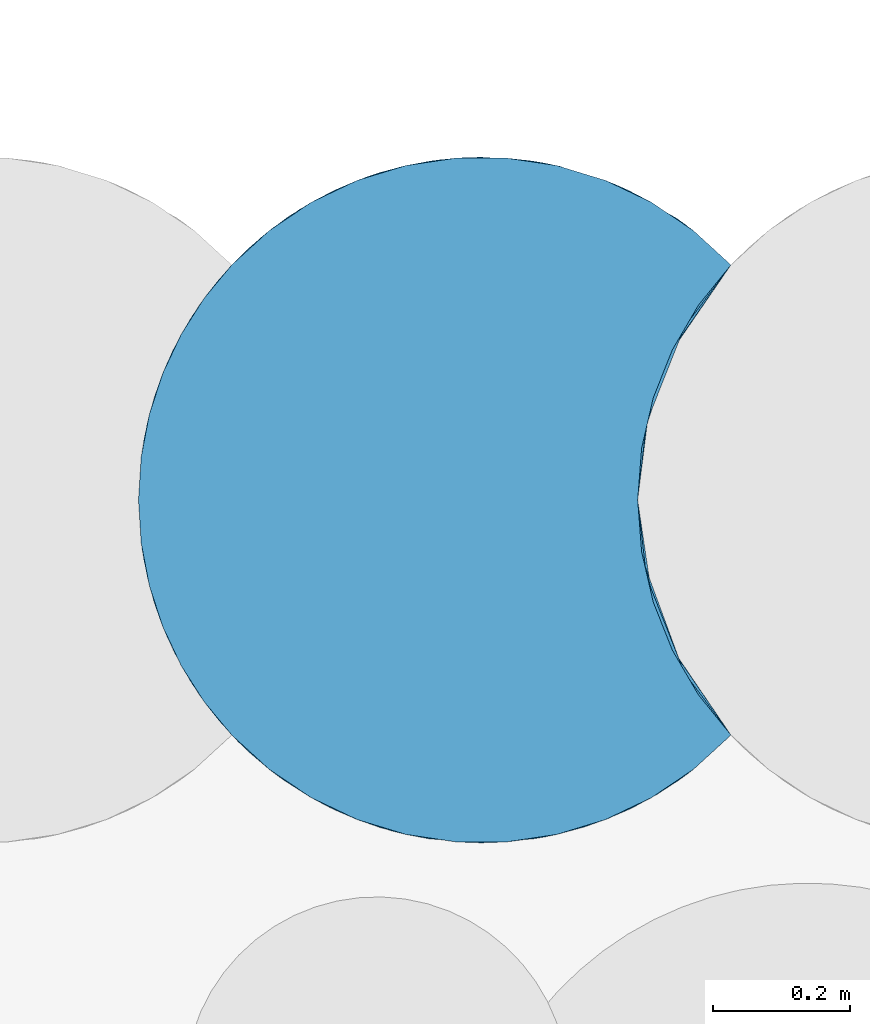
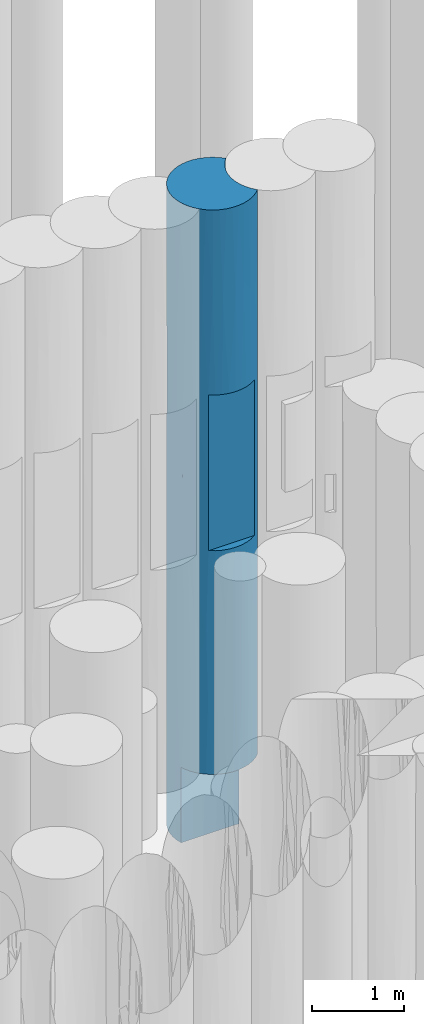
# One storey, part 69 of 104: 1 pile.
"""IFC2X3 building model written with IfcOpenShell, lengths in millimetres."""

import ifcopenshell
import ifcopenshell.guid

model = None  # the IFC model being written
_history = None  # IfcOwnerHistory: only IFC2X3 demands one
_inside = {}  # id of a spatial element -> (the spatial element, [elements in it])
_under = {}  # id of a project, library or spatial element -> (it, [spatial elements below it])
_declared = {}  # id of a project -> (the project, [libraries it declares])
_typed = {}  # id of a type object -> (the type object, [elements of that type])
_made_of = {}  # id of a material, layer set ... -> (it, [elements and type objects made of it])


def new_model(schema):
    """Start an empty IFC model of exactly this schema.

    Asked for "IFC4X3", IfcOpenShell would pick the latest addendum, in which some entities
    have other attributes; the version numbers below select the first issue.
    IFC2X3 requires an IfcOwnerHistory on every rooted entity: one is made here for all.
    """
    global model, _history
    if schema == "IFC4X3":
        model = ifcopenshell.file(schema_version=(4, 3, 0, 0))
    else:
        model = ifcopenshell.file(schema=schema)
    _inside.clear()
    _under.clear()
    _declared.clear()
    _typed.clear()
    _made_of.clear()
    _history = None
    if model.schema == "IFC2X3":
        org = make("IfcOrganization", Name="unknown")
        user = make(
            "IfcPersonAndOrganization",
            ThePerson=make("IfcPerson", FamilyName="unknown"),
            TheOrganization=org,
        )
        app = make(
            "IfcApplication",
            ApplicationDeveloper=org,
            Version="unknown",
            ApplicationFullName="unknown",
            ApplicationIdentifier="unknown",
        )
        _history = make(
            "IfcOwnerHistory",
            OwningUser=user,
            OwningApplication=app,
            ChangeAction="ADDED",
            CreationDate=0,
        )
    return model


def make(cls, **values):
    """One entity of the class cls with the attributes given. An attribute that is None is left unset."""
    return model.create_entity(
        cls, **{name: value for name, value in values.items() if value is not None}
    )


def entity(cls, *values):
    """Any entity or typed value of the class cls, its attributes in the order of the schema. None: left unset."""
    e = model.create_entity(cls)
    for i, value in enumerate(values):
        if value is not None:
            e[i] = value
    return e


def rooted(cls, **values):
    """An entity with a GlobalId (a new one), such as an element, a storey or a relation."""
    return make(cls, GlobalId=ifcopenshell.guid.new(), OwnerHistory=_history, **values)


def si_unit(unit_type, name, prefix=None):
    """IfcSIUnit, for example si_unit("LENGTHUNIT", "METRE", prefix="MILLI")."""
    return make("IfcSIUnit", UnitType=unit_type, Prefix=prefix, Name=name)


def converted_unit(unit_type, name, factor, base, dimensions=None, offset=None):
    """IfcConversionBasedUnit, such as the inch: factor (a typed value) times the base unit."""
    return make(
        "IfcConversionBasedUnit"
        if offset is None
        else "IfcConversionBasedUnitWithOffset",
        ConversionOffset=offset,
        Dimensions=None
        if dimensions is None
        else entity("IfcDimensionalExponents", *dimensions),
        UnitType=unit_type,
        Name=name,
        ConversionFactor=make(
            "IfcMeasureWithUnit", ValueComponent=factor, UnitComponent=base
        ),
    )


def derived_unit(unit_type, elements):
    """IfcDerivedUnit: a product of units, each with its exponent."""
    return make(
        "IfcDerivedUnit",
        Elements=[
            make("IfcDerivedUnitElement", Unit=unit, Exponent=power)
            for unit, power in elements
        ],
        UnitType=unit_type,
    )


def assignment(units):
    """IfcUnitAssignment: the units of a project."""
    return None if units is None else make("IfcUnitAssignment", Units=units)


def point(xyz):
    """IfcCartesianPoint."""
    return None if xyz is None else make("IfcCartesianPoint", Coordinates=xyz)


def direction(xyz):
    """IfcDirection."""
    return None if xyz is None else make("IfcDirection", DirectionRatios=xyz)


def frame(location, z_axis=None, x_axis=None):
    """IfcAxis2Placement3D, a coordinate frame: its origin and axes. An axis left out is left unset."""
    return make(
        "IfcAxis2Placement3D",
        Location=point(location),
        Axis=direction(z_axis),
        RefDirection=direction(x_axis),
    )


def origin():
    """The frame at (0, 0, 0) with its axes left unset."""
    return frame((0.0, 0.0, 0.0))


def place(relative_to, where):
    """IfcLocalPlacement: puts the frame where relative to a parent placement (None: the world)."""
    return make(
        "IfcLocalPlacement", PlacementRelTo=relative_to, RelativePlacement=where
    )


def context(
    kind, dimensions, precision=None, world=None, true_north=None, identifier=None
):
    """IfcGeometricRepresentationContext, for example the 3D "Model" context."""
    return make(
        "IfcGeometricRepresentationContext",
        ContextIdentifier=identifier,
        ContextType=kind,
        CoordinateSpaceDimension=dimensions,
        Precision=precision,
        WorldCoordinateSystem=world,
        TrueNorth=true_north,
    )


def subcontext(parent, identifier, kind, view, scale=None):
    """IfcGeometricRepresentationSubContext, for example "Body" below "Model"."""
    return make(
        "IfcGeometricRepresentationSubContext",
        ContextIdentifier=identifier,
        ContextType=kind,
        ParentContext=parent,
        TargetScale=scale,
        TargetView=view,
    )


def project(units=None, contexts=None):
    """IfcProject with its units and contexts."""
    return rooted(
        "IfcProject",
        Name="project",
        RepresentationContexts=contexts,
        UnitsInContext=assignment(units),
    )


def spatial(cls, under=None, at=None, **own):
    """A site, building, storey or space (cls), placed at a placement, below another one or the project."""
    s = rooted(cls, ObjectPlacement=at, **own)
    if under is not None:
        _under.setdefault(under.id(), (under, []))[1].append(s)
    return s


def faces_of(points, faces, orient=None, outer=None):
    """IfcFace entities. A face is a list of loops; a loop is a list of indices into points, from 0.

    orient and outer hold one flag for each loop. By default every Orientation is true, the
    first loop of a face is its IfcFaceOuterBound and the others are IfcFaceBound.
    """
    made = []
    for i, loops in enumerate(faces):
        bounds = []
        for j, loop in enumerate(loops):
            is_outer = j == 0 if outer is None else outer[i][j]
            bounds.append(
                make(
                    "IfcFaceOuterBound" if is_outer else "IfcFaceBound",
                    Bound=make("IfcPolyLoop", Polygon=[points[k] for k in loop]),
                    Orientation=True if orient is None else orient[i][j],
                )
            )
        made.append(make("IfcFace", Bounds=bounds))
    return made


def faceted_brep(points, faces, orient=None, outer=None, voids=None):
    """IfcFacetedBrep: a solid bounded by flat faces; with voids (closed shells), ...WithVoids."""
    shared = [point(p) for p in points]
    hull = make("IfcClosedShell", CfsFaces=faces_of(shared, faces, orient, outer))
    if voids is None:
        return make("IfcFacetedBrep", Outer=hull)
    return make(
        "IfcFacetedBrepWithVoids",
        Outer=hull,
        Voids=[
            make(cls, CfsFaces=faces_of(shared, fs, o, b)) for cls, fs, o, b in voids
        ],
    )


def shape(context_of_items, identifier, shape_type, items):
    """IfcShapeRepresentation: the items that make up one representation, for example the "Body"."""
    return make(
        "IfcShapeRepresentation",
        ContextOfItems=context_of_items,
        RepresentationIdentifier=identifier,
        RepresentationType=shape_type,
        Items=items,
    )


def source(mapping_origin, context_of_items, identifier, shape_type, items):
    """IfcRepresentationMap: a shape defined once, which mapped items show again and again."""
    return make(
        "IfcRepresentationMap",
        MappingOrigin=mapping_origin,
        MappedRepresentation=shape(context_of_items, identifier, shape_type, items),
    )


def transform(
    local_origin,
    x_axis=None,
    y_axis=None,
    z_axis=None,
    scale=None,
    scale2=None,
    scale3=None,
    uniform=True,
):
    """IfcCartesianTransformationOperator3D, or its non-uniform kind. x_axis, y_axis, z_axis: its Axis1, 2, 3."""
    if uniform:
        return make(
            "IfcCartesianTransformationOperator3D",
            Axis1=direction(x_axis),
            Axis2=direction(y_axis),
            LocalOrigin=point(local_origin),
            Scale=scale,
            Axis3=direction(z_axis),
        )
    return make(
        "IfcCartesianTransformationOperator3DnonUniform",
        Axis1=direction(x_axis),
        Axis2=direction(y_axis),
        LocalOrigin=point(local_origin),
        Scale=scale,
        Axis3=direction(z_axis),
        Scale2=scale2,
        Scale3=scale3,
    )


def mapped(mapping_source, mapping_target):
    """IfcMappedItem: shows the shape of a source again, moved by a transform."""
    return make(
        "IfcMappedItem", MappingSource=mapping_source, MappingTarget=mapping_target
    )


def material(Name=None, Category=None):
    """IfcMaterial."""
    return make("IfcMaterial", Name=Name, Category=Category)


def made_of(thing, what):
    """Note that an element or type object is made of a material, layer set ...; save() writes the relation."""
    if what is not None:
        _made_of.setdefault(what.id(), (what, []))[1].append(thing)
    return thing


def element(
    cls,
    number,
    at=None,
    inside=None,
    cuts=None,
    type_object=None,
    material=None,
    context=None,
    identifier="Body",
    shape_type=None,
    held_by="IfcProductDefinitionShape",
    body=None,
    shapes=None,
    **own,
):
    """One element of the class cls, such as IfcWall. Its Tag is "e" and its number.

    at: its placement. inside: the storey or other place that contains it. cuts: it is an
    opening in that element (IfcRelVoidsElement). A single representation is given by context,
    identifier, shape_type and body (its items); several are given by shapes. held_by: the class
    of the entity that holds the representations. save() writes the other relations.
    """
    e = rooted(cls, Tag="e%d" % number, ObjectPlacement=at, **own)
    if body is not None:
        shapes = [shape(context, identifier, shape_type, body)]
    if shapes is not None:
        e.Representation = make(held_by, Representations=shapes)
    if inside is not None:
        _inside.setdefault(inside.id(), (inside, []))[1].append(e)
    if cuts is not None:
        rooted(
            "IfcRelVoidsElement", RelatingBuildingElement=cuts, RelatedOpeningElement=e
        )
    if type_object is not None:
        _typed.setdefault(type_object.id(), (type_object, []))[1].append(e)
    return made_of(e, material)


def aggregate(whole, parts):
    """IfcRelAggregates: a whole, such as a stair, and the parts it consists of."""
    return rooted("IfcRelAggregates", RelatingObject=whole, RelatedObjects=parts)


def save(model, path):
    """Write the relations noted so far, then the file.

    IfcRelAggregates (storeys below a building ...), IfcRelContainedInSpatialStructure (elements
    in a storey), IfcRelDefinesByType, IfcRelAssociatesMaterial and IfcRelDeclares: one each for
    every whole, place, type object, material and project.
    """
    for whole, parts in _under.values():
        aggregate(whole, parts)
    for where, things in _inside.values():
        rooted(
            "IfcRelContainedInSpatialStructure",
            RelatedElements=things,
            RelatingStructure=where,
        )
    for kind, things in _typed.values():
        rooted("IfcRelDefinesByType", RelatedObjects=things, RelatingType=kind)
    for what, things in _made_of.values():
        rooted("IfcRelAssociatesMaterial", RelatedObjects=things, RelatingMaterial=what)
    for by, libraries in _declared.values():
        rooted("IfcRelDeclares", RelatingContext=by, RelatedDefinitions=libraries)
    model.write(path)


model = new_model("IFC2X3")

# Units and contexts
model_context = context("Model", 3, precision=0.01, world=origin(), true_north=direction((6.12303176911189e-17, 1.0)))
body_context = subcontext(model_context, "Body", "Model", "MODEL_VIEW")
ifc_project = project(units=[si_unit("LENGTHUNIT", "METRE", prefix="MILLI"), si_unit("AREAUNIT", "SQUARE_METRE", prefix="MILLI"), si_unit("VOLUMEUNIT", "CUBIC_METRE"), converted_unit("PLANEANGLEUNIT", "DEGREE", entity("IfcRatioMeasure", 0.0174532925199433), si_unit("PLANEANGLEUNIT", "RADIAN"), dimensions=[0, 0, 0, 0, 0, 0, 0]), si_unit("MASSUNIT", "GRAM", prefix="KILO"), derived_unit("MASSDENSITYUNIT", [(si_unit("MASSUNIT", "GRAM", prefix="KILO"), 1), (si_unit("LENGTHUNIT", "METRE"), -3)]), derived_unit("MOMENTOFINERTIAUNIT", [(si_unit("LENGTHUNIT", "METRE"), 4)]), si_unit("TIMEUNIT", "SECOND"), si_unit("FREQUENCYUNIT", "HERTZ"), si_unit("THERMODYNAMICTEMPERATUREUNIT", "DEGREE_CELSIUS"), derived_unit("THERMALTRANSMITTANCEUNIT", [(si_unit("MASSUNIT", "GRAM", prefix="KILO"), 1), (si_unit("THERMODYNAMICTEMPERATUREUNIT", "KELVIN"), -1), (si_unit("TIMEUNIT", "SECOND"), -3)]), derived_unit("VOLUMETRICFLOWRATEUNIT", [(si_unit("LENGTHUNIT", "METRE"), 3), (si_unit("TIMEUNIT", "SECOND"), -1)]), si_unit("ELECTRICCURRENTUNIT", "AMPERE"), si_unit("ELECTRICVOLTAGEUNIT", "VOLT"), si_unit("POWERUNIT", "WATT"), si_unit("FORCEUNIT", "NEWTON", prefix="KILO"), si_unit("ILLUMINANCEUNIT", "LUX"), si_unit("LUMINOUSFLUXUNIT", "LUMEN"), si_unit("LUMINOUSINTENSITYUNIT", "CANDELA"), derived_unit("USERDEFINED", [(si_unit("MASSUNIT", "GRAM", prefix="KILO"), -1), (si_unit("LENGTHUNIT", "METRE"), -2), (si_unit("TIMEUNIT", "SECOND"), 3), (si_unit("LUMINOUSFLUXUNIT", "LUMEN"), 1)]), derived_unit("LINEARVELOCITYUNIT", [(si_unit("LENGTHUNIT", "METRE"), 1), (si_unit("TIMEUNIT", "SECOND"), -1)]), si_unit("PRESSUREUNIT", "PASCAL"), derived_unit("USERDEFINED", [(si_unit("LENGTHUNIT", "METRE"), -2), (si_unit("MASSUNIT", "GRAM", prefix="KILO"), 1), (si_unit("TIMEUNIT", "SECOND"), -2)]), derived_unit("LINEARFORCEUNIT", [(si_unit("MASSUNIT", "GRAM", prefix="KILO"), 1), (si_unit("LENGTHUNIT", "METRE"), 1), (si_unit("TIMEUNIT", "SECOND"), -2), (si_unit("LENGTHUNIT", "METRE"), -1)]), derived_unit("PLANARFORCEUNIT", [(si_unit("MASSUNIT", "GRAM", prefix="KILO"), 1), (si_unit("LENGTHUNIT", "METRE"), 1), (si_unit("TIMEUNIT", "SECOND"), -2), (si_unit("LENGTHUNIT", "METRE"), -2)])], contexts=[model_context])

# Site, building, storey
site_placement = place(None, origin())
site = spatial("IfcSite", under=ifc_project, at=site_placement, Name="Theater aan de Parade", CompositionType="ELEMENT")
building_placement = place(site_placement, origin())
building = spatial("IfcBuilding", under=site, at=building_placement, Name="Theater aan de Parade", CompositionType="ELEMENT")
storey_placement = place(building_placement, frame((0.0, 0.0, -5520.0)))
storey = spatial("IfcBuildingStorey", under=building, at=storey_placement, Name="-2 kelder", CompositionType="ELEMENT", Elevation=-5520.0)

# Pile
ifc_material = material(Name="00_PBT_MAT_grout")
shared_shape = source(origin(), body_context, "Body", "Brep", [
    faceted_brep([(464.560582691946, 1000.22181762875, 0.0), (538.616668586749, 1000.22280478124, 0.0), (611.860911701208, 989.28522369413, 0.0), (682.686734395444, 967.648790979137, 0.0), (749.540520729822, 935.787802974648, 0.0), (810.955686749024, 894.400737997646, 0.0), (865.595272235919, 844.38383680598, 0.0), (818.150067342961, 785.695330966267, 0.0), (780.078223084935, 720.53458465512, 0.0), (752.247075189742, 650.386060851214, 0.0), (735.290660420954, 576.847851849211, 0.0), (729.595272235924, 501.595272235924, 0.0), (734.989632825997, 428.347327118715, 0.0), (751.055970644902, 356.681032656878, 0.0), (23.0559706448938, 356.681032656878, 0.0), (6.98989759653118, 428.345539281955, 0.0), (1.59527223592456, 501.595272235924, 0.0), (5.55623942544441, 564.406719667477, 0.0), (17.3678310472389, 626.189755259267, 0.0), (36.8430214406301, 686.000655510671, 0.0), (63.6725852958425, 742.891190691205, 0.0), (97.4346759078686, 795.966147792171, 0.0), (137.595794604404, 844.383899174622, 0.0), (192.22735059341, 894.394825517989, 0.0), (253.640398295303, 935.782306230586, 0.0), (320.492432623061, 967.644369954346, 0.0), (391.316996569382, 989.282366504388, 0.0), (865.595272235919, 844.38383680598, 1561.53755047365), (789.401321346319, 910.456713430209, 1491.00548248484), (799.657477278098, 903.041310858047, 2504.8821061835), (26.1639417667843, 656.401764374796, 1423.71039154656), (50.5548382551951, 717.378790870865, 815.522482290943), (716.704326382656, 952.957759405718, 974.743749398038), (575.441567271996, 996.111929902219, 1365.35911550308), (789.401320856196, 910.456713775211, 6978.99451100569), (810.95568642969, 894.40073824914, 8470.0), (865.595272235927, 844.38383680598, 6908.46244952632), (790.87967060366, 909.412065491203, 5813.01191791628), (865.595272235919, 844.38383680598, 5571.72989618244), (865.595272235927, 844.38383680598, 5346.92489905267), (538.616668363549, 1000.22280479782, 8470.0), (611.860911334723, 989.285223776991, 8470.0), (575.441567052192, 996.111929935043, 7150.26699538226), (36.7297114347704, 685.714826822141, 2307.62641859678), (64.0996250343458, 743.664598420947, 1628.37591838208), (222.166559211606, 916.227150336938, 956.748364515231), (355.503556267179, 979.776420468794, 1427.16858692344), (501.588606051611, 1001.59527219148, 2596.73325583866), (463.496981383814, 1000.14167953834, 1072.24580175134), (865.595272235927, 844.38383680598, 8470.0), (222.166558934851, 916.227150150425, 1972.30012717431), (217.544033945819, 913.074183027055, 3221.6386693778), (333.161300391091, 972.371224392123, 2861.2247413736), (286.475705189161, 952.952749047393, 7480.63704182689), (192.227350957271, 894.394825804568, 8470.0), (253.640398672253, 935.78230644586, 8470.0), (100.736484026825, 800.446793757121, 6793.03274327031), (163.989554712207, 870.407391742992, 7127.47212773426), (196.918801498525, 898.044825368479, 6218.94986965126), (785.426204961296, 913.226176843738, 4790.96227754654), (79.757522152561, 770.022008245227, 7621.93766369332), (63.6725852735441, 742.89119065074, 8470.0), (97.4346759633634, 795.966147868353, 8470.0), (692.57972044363, 963.682861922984, 4235.0), (794.511313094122, 906.811502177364, 3679.03770634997), (116.757578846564, 820.812987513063, 1364.08942331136), (716.704325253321, 952.957759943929, 6462.73277506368), (716.704325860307, 952.957759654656, 7495.25624707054), (716.704325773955, 952.957759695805, 2007.26721704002), (36.8430215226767, 686.000655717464, 8470.0), (464.560582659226, 1000.22181762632, 8470.0), (682.686733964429, 967.648791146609, 8470.0), (749.540520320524, 935.787803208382, 8470.0), (1.59527223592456, 501.595272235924, 1058.74569867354), (1.59527223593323, 501.595272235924, 1561.53750746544), (286.475704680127, 952.952748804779, 4235.0), (286.475704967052, 952.952748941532, 6434.30301971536), (236.846141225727, 925.750783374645, 5334.6515100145), (13.5254225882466, 610.167008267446, 7372.75274235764), (17.3678311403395, 626.189755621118, 8470.0), (150.377453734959, 857.468907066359, 2562.89631213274), (79.7181549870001, 769.960131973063, 2632.86902156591), (49.3623188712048, 714.868233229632, 6938.44019104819), (712.525517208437, 954.925650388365, 3129.72297922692), (501.588606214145, 1001.59527219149, 5873.26673738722), (569.755285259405, 996.927698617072, 4755.12996065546), (476.322275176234, 1000.95613936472, 5007.14730889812), (391.316996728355, 989.28236654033, 8470.0), (427.735977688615, 996.109988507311, 7104.64110728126), (9.23358182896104, 588.658271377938, 2342.30656064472), (116.757578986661, 820.812987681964, 5893.9017401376), (33.0262183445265, 676.074616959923, 5347.10350774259), (137.605579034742, 844.3947810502, 8470.0), (438.381630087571, 997.583211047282, 3963.78240309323), (320.492432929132, 967.644370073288, 8470.0), (43.0784257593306, 701.000140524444, 4473.88274990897), (11.2142039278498, 599.198591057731, 4667.65803343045), (1.59527223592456, 501.595272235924, 8470.0), (5.55623942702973, 564.406719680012, 8470.0), (9.51542927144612, 590.237407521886, 5495.65544289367), (116.185815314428, 820.122430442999, 3373.18426703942), (182.118134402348, 886.217630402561, 4288.45203817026), (591.824887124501, 993.386504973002, 3489.10403538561), (18.4305593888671, 630.249305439, 6406.00282362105), (1.59527223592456, 501.595272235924, 2117.50286755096), (1.59527223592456, 501.595272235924, 3123.07501493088), (616.099631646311, 988.30745790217, 2440.53317146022), (386.192771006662, 988.095285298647, 6175.6487371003), (381.519799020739, 986.963051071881, 5169.51578005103), (613.759023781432, 988.852178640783, 6106.01087867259), (692.700363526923, 963.6329807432, 5361.94747271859), (75.4806634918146, 763.179561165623, 5112.43896971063), (135.72579850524, 842.387772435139, 5005.6290926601), (62.9697281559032, 741.611171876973, 3455.71179201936), (97.3058699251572, 795.789220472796, 4263.74923889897), (26.3526093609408, 656.979992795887, 3676.29325435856), (1.59527223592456, 501.595272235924, 3176.26003642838), (1.59527223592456, 501.595272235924, 4234.99353122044), (865.595272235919, 844.38383680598, 3123.07579226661), (865.595272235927, 844.38383680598, 2898.26629172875), (865.595272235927, 844.38383680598, 4235.0006913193), (1.59527223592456, 501.595272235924, 5346.92498506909), (1.59527223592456, 501.595272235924, 5571.74329494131), (1.59527223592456, 501.595272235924, 6908.46249253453), (9.64635078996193, 412.229402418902, 1740.22189428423), (142.565506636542, 153.604428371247, 5505.0), (213.720794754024, 92.7820077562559, 4990.0), (213.720794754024, 92.7820077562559, 6020.0), (105.373424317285, 196.6227370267, 4545.399296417), (23.0559706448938, 356.681032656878, 1000.0), (118.439637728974, 180.360529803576, 2386.19848820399), (32.2090199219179, 329.326452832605, 2204.61529178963), (68.8651327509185, 251.106497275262, 1000.0), (42.9242829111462, 302.54521935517, 1000.0), (789.469749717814, 92.7820077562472, 3960.0), (865.595272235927, 158.806707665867, 2867.49999999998), (865.595272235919, 158.806707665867, 3648.28895539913), (865.595272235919, 158.806707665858, 3801.24999999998), (865.595272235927, 158.806707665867, 4735.0), (865.595272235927, 158.806707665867, 5668.74999999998), (865.595272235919, 158.806707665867, 5821.74150431), (865.595272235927, 158.806707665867, 6602.49999999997), (789.469749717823, 92.7820077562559, 6020.0), (789.469749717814, 92.7820077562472, 4990.0), (8.81751859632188, 416.918914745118, 2646.87500001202), (286.466151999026, 50.2423486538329, 2461.24897887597), (193.922353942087, 107.466644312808, 2892.94714577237), (210.051202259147, 95.3908221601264, 1944.41924411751), (163.989554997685, 132.783152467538, 7198.38299068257), (79.7181554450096, 233.230411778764, 6604.44114999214), (148.072190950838, 148.011574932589, 6362.25527219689), (31.1680313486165, 332.189808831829, 6056.32490962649), (75.690496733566, 239.669477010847, 5519.99565303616), (253.629698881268, 67.4143486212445, 1000.0), (320.484188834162, 35.5493780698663, 1000.0), (55.1532507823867, 276.451936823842, 3318.42122771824), (757.302459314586, 71.9281516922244, 3141.67756733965), (789.630291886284, 92.8951040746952, 2324.13442625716), (391.312227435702, 13.9092564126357, 1000.0), (370.182009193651, 19.1737197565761, 1947.89605695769), (279.558542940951, 53.6000815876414, 3960.0), (391.331294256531, 13.9049451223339, 2895.75417679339), (100.558387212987, 202.982786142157, 1000.0), (137.59527223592, 158.806707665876, 1000.0), (464.559880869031, 2.96877897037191, 1000.0), (501.589988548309, 1.59527226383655, 2460.40757830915), (29.9326481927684, 335.660438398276, 4903.36557309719), (121.469006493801, 176.781445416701, 3478.13394910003), (26.1639420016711, 346.788779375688, 7201.03028685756), (5.55623942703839, 438.783824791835, 8470.0), (79.7181554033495, 233.230411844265, 7559.63491729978), (63.6725852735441, 260.299353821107, 8470.0), (36.8430215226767, 317.189888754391, 8470.0), (810.967462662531, 108.799081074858, 1000.0), (865.595272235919, 158.806707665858, 1000.0), (865.595272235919, 158.806707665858, 1780.76885310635), (17.3678311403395, 377.000788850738, 8470.0), (137.605579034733, 158.795763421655, 8470.0), (865.595272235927, 158.806707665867, 7689.2311468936), (865.595272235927, 158.806707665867, 8470.0), (810.95568642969, 108.789806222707, 8470.0), (253.008900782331, 67.7694823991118, 7429.16293872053), (279.558542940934, 53.6000815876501, 6020.0), (749.552165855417, 67.40939164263, 1000.0), (192.227350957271, 108.795718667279, 8470.0), (192.215508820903, 108.80504579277, 1000.0), (355.503557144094, 23.4141237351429, 7268.21560542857), (14.414938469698, 389.099395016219, 3705.62500005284), (320.492432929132, 35.5461743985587, 8470.0), (391.316996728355, 13.9081779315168, 8470.0), (350.609564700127, 24.9367822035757, 6020.0), (501.595272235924, 1.59527223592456, 3960.0), (425.205629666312, 7.4651046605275, 3960.0), (538.620125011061, 2.96799633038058, 1000.0), (611.868102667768, 13.9069466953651, 1000.0), (595.054059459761, 10.4074720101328, 1977.18955440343), (682.696772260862, 35.5456539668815, 1000.0), (688.656307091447, 37.9055384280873, 2500.38408566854), (97.4346759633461, 207.224396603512, 8470.0), (682.68673396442, 35.5417533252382, 8470.0), (611.860911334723, 13.9053206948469, 8470.0), (611.870435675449, 13.9074742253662, 7434.83465826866), (595.688957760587, 10.5287000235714, 2967.02304747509), (577.984914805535, 7.4651046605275, 3960.0), (749.540520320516, 67.4027412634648, 8470.0), (716.704326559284, 50.2327851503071, 7267.64689878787), (803.386835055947, 102.945234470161, 7145.86557351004), (577.984914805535, 7.4651046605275, 6020.0), (501.58860727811, 1.5952722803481, 7268.66818084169), (501.595272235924, 1.59527223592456, 6020.0), (723.632001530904, 53.6000815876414, 6020.0), (865.595272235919, 158.806707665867, 2561.54745108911), (652.580979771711, 24.9367822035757, 3960.0), (723.632001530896, 53.6000815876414, 3960.0), (213.720794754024, 92.7820077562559, 3960.0), (253.640398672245, 67.4082380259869, 8470.0), (425.205629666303, 7.4651046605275, 6020.0), (464.560582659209, 2.96872684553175, 8470.0), (652.580979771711, 24.9367822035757, 6020.0), (538.616668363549, 2.96773967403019, 8470.0), (865.595272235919, 158.806707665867, 6908.48300862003), (350.609564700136, 24.9367822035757, 3960.0), (818.150067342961, 217.495213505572, 8470.0), (780.078223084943, 282.655959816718, 8470.0), (752.247075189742, 352.804483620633, 8470.0), (735.290660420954, 426.342692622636, 8470.0), (729.595272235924, 501.595272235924, 8470.0), (735.290660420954, 576.847851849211, 8470.0), (752.247075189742, 650.386060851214, 8470.0), (780.078223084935, 720.53458465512, 8470.0), (818.150067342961, 785.695330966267, 8470.0), (742.379444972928, 613.937328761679, 959.062888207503), (738.151011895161, 593.695972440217, 6638.44327873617), (742.379444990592, 613.937328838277, 7510.93711044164), (729.595272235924, 501.595272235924, 6908.4597613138), (808.681716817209, 771.468907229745, 6638.44327726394), (781.985001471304, 724.40695394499, 5169.28730842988), (797.883005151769, 753.834282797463, 959.062888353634), (764.837270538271, 685.986160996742, 1706.36651512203), (797.883005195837, 753.834282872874, 7510.93711014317), (729.595272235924, 501.595272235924, 1561.54023868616), (729.595272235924, 501.595272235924, 1058.75298998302), (808.681716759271, 771.468907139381, 1831.55672113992), (778.799150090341, 717.888721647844, 2630.65322090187), (766.296890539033, 689.62348691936, 3566.63442778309), (739.967026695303, 602.90756748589, 2500.19182196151), (729.595272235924, 501.595272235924, 3123.08047737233), (729.595272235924, 501.595272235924, 2117.50597996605), (764.837270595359, 685.986161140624, 6763.63348211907), (798.309538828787, 754.56289103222, 4260.62631723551), (810.907944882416, 774.909966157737, 3324.34692372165), (745.175048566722, 625.438103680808, 5612.66192558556), (744.930852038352, 624.478956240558, 4544.29323307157), (738.502483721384, 595.552033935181, 3413.30504808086), (729.595272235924, 501.595272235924, 4235.01242423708), (729.595272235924, 501.595272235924, 5571.72573206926), (729.595272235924, 501.595272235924, 5346.93194686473), (729.595272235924, 501.595272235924, 3176.24701001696), (737.652631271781, 412.194835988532, 1740.61215192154), (796.86362242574, 251.109106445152, 1977.49082641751), (808.103941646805, 232.6249053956, 2870.31406883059), (817.38347481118, 218.608639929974, 1000.0), (751.055970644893, 356.681032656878, 1000.0), (797.883005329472, 249.356261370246, 7510.9371107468), (762.458274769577, 323.317327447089, 4903.36557316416), (741.179889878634, 394.588663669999, 5988.20523574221), (778.685121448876, 285.53964070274, 5822.23176538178), (742.379445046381, 389.253215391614, 7510.9371105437), (764.837270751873, 317.204382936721, 6763.63348277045), (808.681717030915, 231.721636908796, 6638.44327929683), (736.645152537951, 417.928196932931, 2646.87500001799), (763.60159139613, 320.349887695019, 2739.79071288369), (778.900945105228, 285.089790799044, 1000.0), (736.819640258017, 416.906568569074, 5098.32805872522), (739.996017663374, 400.142968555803, 3705.62500000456), (776.673795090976, 289.788436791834, 3825.90126919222), (807.285378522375, 233.91196369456, 5061.9220930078)], [[[0, 1, 2, 3, 4, 5, 6, 7, 8, 9, 10, 11, 12, 13, 14, 15, 16, 17, 18, 19, 20, 21, 22, 23, 24, 25, 26]], [[27, 28, 29]], [[18, 30, 31]], [[4, 3, 32]], [[32, 2, 33]], [[34, 35, 36]], [[37, 36, 38, 39]], [[40, 41, 42]], [[30, 43, 44]], [[45, 46, 25]], [[47, 33, 48]], [[6, 5, 27]], [[35, 49, 36]], [[1, 48, 33]], [[26, 46, 48]], [[50, 51, 52]], [[53, 54, 55]], [[56, 57, 58]], [[39, 59, 37]], [[28, 5, 32]], [[60, 61, 62]], [[63, 59, 64]], [[25, 46, 26]], [[45, 22, 65]], [[24, 23, 45]], [[66, 67, 34]], [[28, 32, 68]], [[25, 24, 45]], [[69, 61, 60]], [[70, 40, 42]], [[67, 71, 72]], [[0, 48, 1]], [[42, 41, 67]], [[17, 16, 73, 74]], [[52, 51, 75]], [[58, 76, 77]], [[31, 21, 20]], [[69, 78, 79]], [[1, 33, 2]], [[65, 50, 45]], [[31, 19, 18]], [[80, 65, 81]], [[78, 69, 82]], [[64, 29, 83]], [[17, 74, 30]], [[84, 85, 86]], [[53, 87, 88]], [[30, 74, 89]], [[30, 18, 17]], [[42, 84, 88]], [[82, 90, 91]], [[57, 60, 92]], [[4, 32, 5]], [[88, 87, 70]], [[52, 93, 47]], [[94, 53, 55]], [[95, 96, 91]], [[42, 88, 70]], [[97, 98, 78]], [[54, 53, 57]], [[92, 54, 57]], [[91, 96, 99]], [[51, 100, 101]], [[102, 63, 83]], [[57, 56, 60]], [[44, 31, 30]], [[99, 103, 91]], [[78, 98, 79]], [[50, 52, 46]], [[65, 22, 21]], [[89, 74, 104, 105]], [[75, 101, 77]], [[106, 33, 47]], [[33, 68, 32]], [[42, 67, 66]], [[107, 84, 108]], [[88, 76, 53]], [[67, 41, 71]], [[109, 42, 66]], [[53, 94, 87]], [[57, 53, 76]], [[32, 3, 2]], [[45, 23, 22]], [[46, 45, 50]], [[67, 72, 35]], [[106, 83, 68]], [[110, 66, 37]], [[111, 90, 112]], [[95, 91, 111]], [[51, 101, 75]], [[100, 113, 114]], [[93, 52, 75]], [[47, 46, 52]], [[108, 93, 75]], [[102, 85, 63]], [[89, 43, 30]], [[115, 105, 116, 117]], [[29, 28, 68]], [[5, 28, 27]], [[83, 29, 68]], [[29, 118, 119, 27]], [[102, 106, 47]], [[59, 39, 120]], [[47, 93, 102]], [[108, 86, 93]], [[93, 85, 102]], [[110, 109, 66]], [[59, 120, 64]], [[118, 64, 120]], [[59, 63, 110]], [[63, 85, 110]], [[109, 85, 84]], [[85, 109, 110]], [[42, 109, 84]], [[29, 64, 118]], [[64, 83, 63]], [[110, 37, 59]], [[37, 66, 34]], [[35, 34, 67]], [[37, 34, 36]], [[77, 108, 75]], [[88, 107, 76]], [[83, 106, 102]], [[33, 106, 68]], [[80, 51, 50]], [[80, 100, 51]], [[114, 112, 101]], [[57, 76, 58]], [[77, 101, 112]], [[108, 77, 76]], [[65, 80, 50]], [[100, 80, 81]], [[113, 100, 81]], [[101, 100, 114]], [[43, 113, 81]], [[113, 115, 95]], [[111, 112, 114]], [[112, 90, 58]], [[114, 113, 95]], [[90, 111, 91]], [[114, 95, 111]], [[117, 96, 115]], [[99, 96, 121]], [[115, 96, 95]], [[121, 96, 117]], [[99, 121, 122, 123]], [[123, 78, 103]], [[112, 58, 77]], [[56, 58, 90]], [[103, 78, 82]], [[78, 123, 97]], [[91, 103, 82]], [[123, 103, 99]], [[105, 115, 89]], [[115, 113, 43]], [[115, 43, 89]], [[44, 81, 65]], [[81, 44, 43]], [[65, 21, 31]], [[65, 31, 44]], [[19, 31, 20]], [[90, 82, 56]], [[60, 56, 82]], [[60, 82, 69]], [[60, 62, 92]], [[26, 48, 0]], [[47, 48, 46]], [[93, 86, 85]], [[108, 84, 86]], [[84, 107, 88]], [[108, 76, 107]], [[124, 104, 74, 73]], [[125, 126, 127]], [[126, 125, 128]], [[129, 15, 14]], [[130, 131, 132]], [[129, 133, 131]], [[134, 135, 136, 137, 138, 139, 140, 141, 142, 143]], [[144, 116, 105, 104]], [[132, 131, 133]], [[129, 124, 73]], [[145, 146, 147]], [[148, 149, 150]], [[149, 151, 152]], [[145, 153, 154]], [[131, 130, 155]], [[135, 156, 157]], [[154, 158, 159]], [[153, 145, 147]], [[160, 145, 161]], [[130, 162, 163]], [[164, 165, 159]], [[122, 166, 151]], [[160, 146, 145]], [[130, 167, 155]], [[123, 168, 169]], [[148, 170, 149]], [[170, 171, 172]], [[173, 174, 175]], [[176, 168, 172]], [[123, 122, 151]], [[170, 172, 168]], [[170, 148, 177]], [[178, 179, 180]], [[181, 127, 182]], [[183, 173, 157]], [[128, 166, 155]], [[184, 177, 148]], [[147, 163, 185]], [[181, 182, 186]], [[187, 166, 117]], [[181, 184, 148]], [[188, 186, 189]], [[186, 188, 181]], [[186, 182, 190]], [[187, 116, 144]], [[131, 144, 124]], [[168, 149, 170]], [[169, 97, 123]], [[168, 151, 149]], [[161, 191, 192]], [[150, 125, 127]], [[165, 164, 193]], [[166, 122, 121, 117]], [[193, 194, 195]], [[195, 196, 197]], [[170, 177, 198]], [[165, 161, 159]], [[199, 200, 201]], [[191, 161, 165]], [[191, 165, 202]], [[127, 148, 150]], [[191, 202, 203]], [[187, 117, 116]], [[204, 205, 206]], [[207, 208, 209]], [[206, 210, 142]], [[157, 175, 211, 135]], [[197, 156, 212]], [[202, 195, 197]], [[130, 146, 167]], [[173, 175, 157]], [[213, 156, 134]], [[146, 160, 214]], [[180, 204, 206]], [[188, 215, 181]], [[183, 197, 196]], [[130, 132, 162]], [[216, 186, 190]], [[208, 217, 189]], [[218, 205, 201]], [[186, 216, 208]], [[156, 135, 134]], [[208, 189, 186]], [[212, 156, 213]], [[217, 208, 219]], [[219, 208, 201]], [[183, 157, 197]], [[218, 201, 207]], [[208, 216, 209]], [[212, 203, 202]], [[169, 168, 176]], [[144, 155, 187]], [[210, 205, 218]], [[128, 214, 126]], [[199, 205, 204]], [[151, 168, 123]], [[206, 142, 141]], [[206, 141, 220, 178]], [[152, 125, 150]], [[219, 201, 200]], [[198, 171, 170]], [[197, 157, 156]], [[152, 166, 128]], [[161, 221, 160]], [[166, 152, 151]], [[166, 187, 155]], [[128, 125, 152]], [[124, 144, 104]], [[144, 131, 155]], [[15, 129, 73]], [[131, 124, 129]], [[180, 206, 178]], [[16, 15, 73]], [[206, 205, 210]], [[152, 150, 149]], [[167, 214, 128]], [[130, 163, 147]], [[214, 167, 146]], [[155, 167, 128]], [[130, 147, 146]], [[153, 147, 185]], [[221, 161, 192]], [[159, 161, 145]], [[154, 159, 145]], [[159, 158, 164]], [[195, 202, 165]], [[212, 202, 197]], [[193, 195, 165]], [[195, 194, 196]], [[184, 181, 215]], [[181, 148, 127]], [[207, 201, 208]], [[199, 201, 205]], [[72, 71, 41, 40, 70, 87, 94, 55, 54, 92, 62, 61, 69, 79, 98, 97, 169, 176, 172, 171, 198, 177, 184, 215, 188, 189, 217, 219, 200, 199, 204, 180, 179, 222, 223, 224, 225, 226, 227, 228, 229, 230, 49, 35]], [[10, 9, 231]], [[232, 233, 234]], [[38, 235, 236]], [[231, 237, 238]], [[6, 237, 7]], [[231, 9, 8, 237]], [[239, 36, 49]], [[27, 237, 6]], [[231, 240, 241, 11]], [[234, 233, 226]], [[227, 226, 233]], [[238, 237, 242]], [[243, 244, 245]], [[245, 246, 247, 240]], [[230, 229, 239]], [[233, 248, 239]], [[243, 242, 119]], [[249, 244, 250]], [[233, 239, 229, 228]], [[228, 227, 233]], [[8, 7, 237]], [[251, 252, 236]], [[10, 231, 11]], [[240, 231, 245]], [[248, 233, 232]], [[230, 239, 49]], [[36, 239, 235]], [[119, 250, 243]], [[242, 237, 27]], [[253, 245, 244]], [[252, 253, 244]], [[239, 248, 235]], [[238, 242, 243]], [[242, 27, 119]], [[38, 36, 235]], [[238, 243, 245]], [[250, 244, 243]], [[231, 238, 245]], [[253, 246, 245]], [[249, 252, 244]], [[250, 119, 118, 120]], [[252, 254, 253]], [[249, 250, 120]], [[236, 248, 251]], [[232, 234, 255, 256]], [[249, 120, 39, 38]], [[235, 248, 236]], [[38, 236, 249]], [[249, 236, 252]], [[232, 256, 251]], [[252, 251, 256]], [[232, 251, 248]], [[253, 254, 257, 246]], [[252, 256, 254]], [[258, 241, 240, 247]], [[211, 259, 260]], [[261, 259, 174]], [[13, 12, 262]], [[222, 179, 263]], [[258, 262, 241]], [[264, 265, 266]], [[267, 234, 226]], [[225, 224, 267]], [[268, 263, 269]], [[270, 271, 258]], [[261, 272, 259]], [[258, 271, 259]], [[223, 263, 267, 224]], [[259, 211, 175, 174]], [[263, 268, 267]], [[270, 247, 246, 257]], [[262, 259, 272]], [[260, 259, 271]], [[265, 264, 273]], [[254, 274, 257]], [[269, 263, 220]], [[223, 222, 263]], [[263, 179, 178, 220]], [[225, 267, 226]], [[234, 267, 265]], [[265, 255, 234]], [[271, 275, 260]], [[268, 266, 265]], [[275, 138, 137, 136]], [[275, 276, 138]], [[275, 136, 260]], [[275, 271, 274]], [[260, 136, 135, 211]], [[274, 273, 264]], [[270, 257, 274]], [[275, 274, 264]], [[247, 270, 258]], [[271, 270, 274]], [[241, 262, 12]], [[259, 262, 258]], [[268, 269, 266]], [[241, 12, 11]], [[266, 269, 140]], [[266, 140, 276]], [[269, 220, 141, 140]], [[276, 264, 266]], [[267, 268, 265]], [[273, 255, 265]], [[264, 276, 275]], [[276, 140, 139, 138]], [[273, 254, 256, 255]], [[254, 273, 274]], [[133, 129, 262, 272, 261, 174, 173, 183, 196, 194, 193, 164, 158, 154, 153, 185, 163, 162, 132]], [[262, 129, 14, 13]], [[142, 210, 218, 207, 209, 216, 190, 182, 127]], [[214, 134, 143, 142, 127, 126]], [[191, 203, 212, 213, 134, 214, 160, 221, 192]]]),
])
pile_placement = place(storey_placement, frame((39976.2628578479, 43807.2179922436, -3840.0)))
element("IfcPile", 1, at=pile_placement, inside=storey, material=ifc_material, Name="17_PBT_SFO_grondkering_rond:Ø1000 (grondkering)", ObjectType="17_PBT_SFO_grondkering_rond:Ø1000 (grondkering)", PredefinedType="NOTDEFINED", context=body_context, shape_type="MappedRepresentation", body=[
    mapped(shared_shape, transform((0.0, 0.0, 0.0), scale=1.0)),
])

save(model, "model.ifc")
